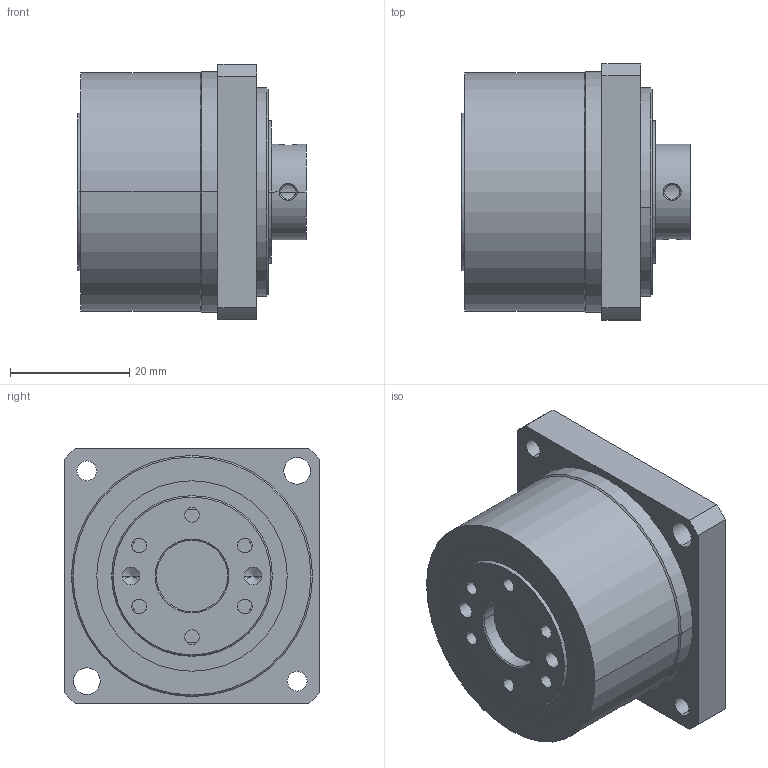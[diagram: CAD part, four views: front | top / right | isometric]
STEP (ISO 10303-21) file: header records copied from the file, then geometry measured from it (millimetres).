
FILE_DESCRIPTION (( 'STEP AP214' ), '1' );
FILE_NAME ('CSF-11-xxx-2XH-F.STEP', '2022-04-02T03:11:11', ( 'PC' ), ( 'Microsoft' ), 'SwSTEP 2.0', 'SolidWorks 2016', '' );
FILE_SCHEMA (( 'AUTOMOTIVE_DESIGN' ));
Length unit declared in the file: millimetre
Products named in the file (15): CSF-11-xxx-2XH-F; CSF-11-01-2XH-F_蕼偞; CSF-11-02-2XH-F_蕼偞; CSF-11-03-2XH-F_蕼偞; CSF-11-05-2XH-F_蕼偞; 内六角圆螺钉M2.5×6_預設; CSF-11-04-2XH-F_蕼偞; 柔性轴承27.262X20.73X4.8X4.6_預設; CSF-11-2XH-F-疏楷汜ん_蕼偞; CSF-11-交叉轴承外圈; CSF-11-交叉轴承内圈; CSF-11-蝠脫粣創黑芛; M1.6-蹟隊_蕼偞; 外径27x1.0  O型圈_預設; CSF-11蝠脫粣創_蕼偞
Assembly tree (19 placements, depth 3):
  CSF-11-xxx-2XH-F
    CSF-11-01-2XH-F_蕼偞
    CSF-11-02-2XH-F_蕼偞
    CSF-11-03-2XH-F_蕼偞
    CSF-11-05-2XH-F_蕼偞
    内六角圆螺钉M2.5×6_預設  x6
    CSF-11-2XH-F-疏楷汜ん_蕼偞
      CSF-11-04-2XH-F_蕼偞
      柔性轴承27.262X20.73X4.8X4.6_預設
    CSF-11蝠脫粣創_蕼偞
      CSF-11-交叉轴承外圈
      CSF-11-交叉轴承内圈
      CSF-11-蝠脫粣創黑芛
      M1.6-蹟隊_蕼偞
      外径27x1.0  O型圈_預設
Bounding box: 38.3 x 43 x 43 mm (x, y, z)
Volume: 32419.8 mm3; surface area: 27093.5 mm2
Topology: 17 solids, 24 shells, 521 faces, 1172 edges, 701 vertices
Faces by surface type: cylinder 214, plane 135, cone 104, torus 42, bspline 26
Entity records: 13330 total; most frequent: CARTESIAN_POINT 2352, DIRECTION 2334, ORIENTED_EDGE 1864, AXIS2_PLACEMENT_3D 991, EDGE_CURVE 932, VERTEX_POINT 571, CIRCLE 552, EDGE_LOOP 527
